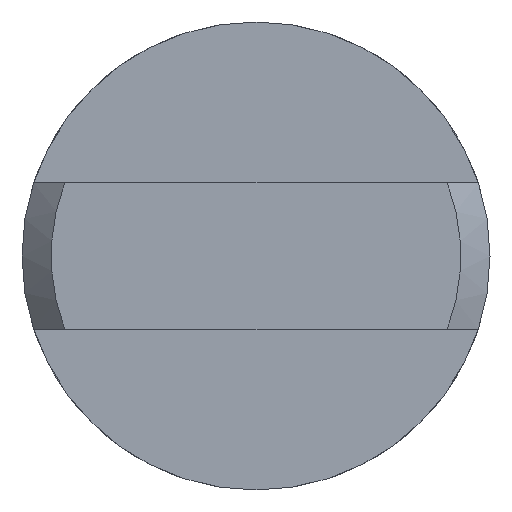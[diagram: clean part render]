
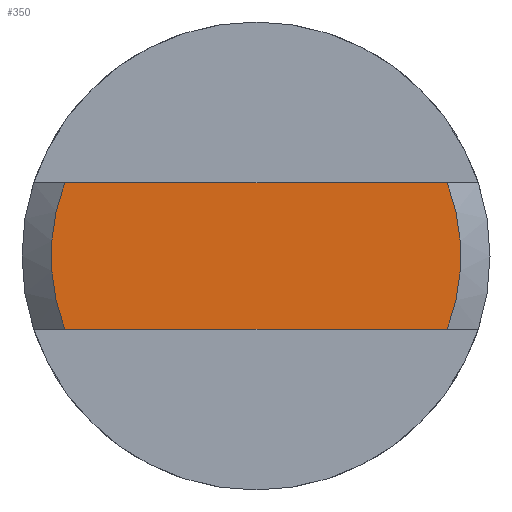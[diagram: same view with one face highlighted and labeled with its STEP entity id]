
A CAD part, left-side view. The second image highlights one B-rep face of the part: STEP entity #350.
In plain terms, the highlighted planar face has unit normal (-1, 0, 0).
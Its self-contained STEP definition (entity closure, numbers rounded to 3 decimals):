
#49 = EDGE_CURVE ( 'NONE', #967, #982, #355, .T. ) ;
#82 = EDGE_CURVE ( 'NONE', #602, #434, #937, .T. ) ;
#92 = ORIENTED_EDGE ( 'NONE', *, *, #386, .T. ) ;
#100 = AXIS2_PLACEMENT_3D ( 'NONE', #461, #709, #318 ) ;
#154 = DIRECTION ( 'NONE',  ( 0., 0., -1. ) ) ;
#255 = ORIENTED_EDGE ( 'NONE', *, *, #82, .F. ) ;
#274 = EDGE_LOOP ( 'NONE', ( #950, #92, #255, #969 ) ) ;
#291 = CIRCLE ( 'NONE', #694, 3.5 ) ;
#316 = VECTOR ( 'NONE', #926, 1000. ) ;
#318 = DIRECTION ( 'NONE',  ( 0., 0., -1. ) ) ;
#350 = ADVANCED_FACE ( 'NONE', ( #488 ), #537, .F. ) ;
#355 = LINE ( 'NONE', #757, #419 ) ;
#373 = AXIS2_PLACEMENT_3D ( 'NONE', #560, #877, #154 ) ;
#386 = EDGE_CURVE ( 'NONE', #967, #434, #934, .T. ) ;
#404 = DIRECTION ( 'NONE',  ( -1., 0., 0. ) ) ;
#418 = CARTESIAN_POINT ( 'NONE',  ( -24.75, -3.269, 1.25 ) ) ;
#419 = VECTOR ( 'NONE', #526, 1000. ) ;
#434 = VERTEX_POINT ( 'NONE', #740 ) ;
#441 = CARTESIAN_POINT ( 'NONE',  ( -24.75, -3.269, -1.25 ) ) ;
#461 = CARTESIAN_POINT ( 'NONE',  ( -24.75, 0., 0. ) ) ;
#488 = FACE_OUTER_BOUND ( 'NONE', #274, .T. ) ;
#526 = DIRECTION ( 'NONE',  ( 0., -1., 0. ) ) ;
#537 = PLANE ( 'NONE',  #100 ) ;
#560 = CARTESIAN_POINT ( 'NONE',  ( -24.75, 0., 0. ) ) ;
#602 = VERTEX_POINT ( 'NONE', #441 ) ;
#694 = AXIS2_PLACEMENT_3D ( 'NONE', #968, #404, #1039 ) ;
#709 = DIRECTION ( 'NONE',  ( 1., 0., 0. ) ) ;
#718 = EDGE_CURVE ( 'NONE', #602, #982, #291, .T. ) ;
#740 = CARTESIAN_POINT ( 'NONE',  ( -24.75, 3.269, -1.25 ) ) ;
#757 = CARTESIAN_POINT ( 'NONE',  ( -24.75, 0., 1.25 ) ) ;
#811 = CARTESIAN_POINT ( 'NONE',  ( -24.75, 3.269, 1.25 ) ) ;
#877 = DIRECTION ( 'NONE',  ( -1., 0., 0. ) ) ;
#926 = DIRECTION ( 'NONE',  ( 0., 1., 0. ) ) ;
#934 = CIRCLE ( 'NONE', #373, 3.5 ) ;
#937 = LINE ( 'NONE', #1010, #316 ) ;
#950 = ORIENTED_EDGE ( 'NONE', *, *, #49, .F. ) ;
#967 = VERTEX_POINT ( 'NONE', #811 ) ;
#968 = CARTESIAN_POINT ( 'NONE',  ( -24.75, 0., 0. ) ) ;
#969 = ORIENTED_EDGE ( 'NONE', *, *, #718, .T. ) ;
#982 = VERTEX_POINT ( 'NONE', #418 ) ;
#1010 = CARTESIAN_POINT ( 'NONE',  ( -24.75, 0., -1.25 ) ) ;
#1039 = DIRECTION ( 'NONE',  ( 0., 0., -1. ) ) ;
